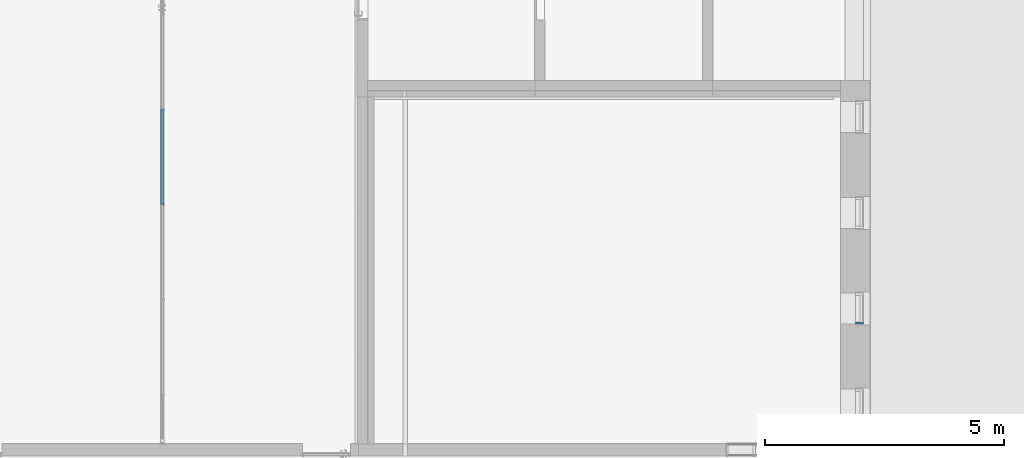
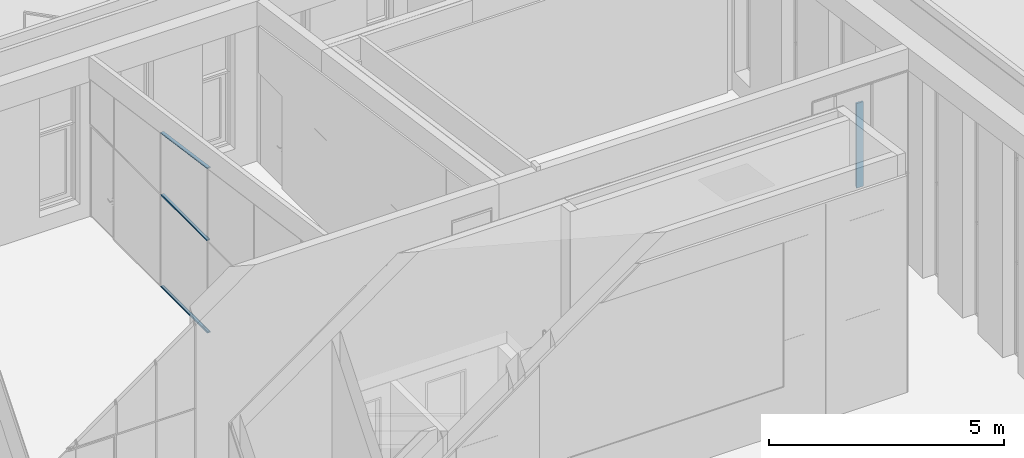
# One storey, part 19 of 246: 4 members, 2 elements without a shape of their own.
"""IFC2X3 building model written with IfcOpenShell, lengths in millimetres."""

from ifc_helpers import new_model, entity, si_unit, converted_unit, derived_unit, money_unit, direction, frame, origin_with_axes, place, context, subcontext, project, spatial, faceted_brep, source, transform, mapped, material, material_list, type_object, element, aggregate, save


model = new_model("IFC2X3")

# Units and contexts
model_context = context("Model", 3, precision=0.01, world=origin_with_axes(), true_north=direction((0.0, 1.0)))
body_context = subcontext(model_context, "Body", "Model", "MODEL_VIEW")
ifc_project = project(units=[si_unit("LENGTHUNIT", "METRE", prefix="MILLI"), si_unit("AREAUNIT", "SQUARE_METRE"), si_unit("VOLUMEUNIT", "CUBIC_METRE"), converted_unit("PLANEANGLEUNIT", "DEGREE", entity("IfcPlaneAngleMeasure", 0.0174532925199), si_unit("PLANEANGLEUNIT", "RADIAN"), dimensions=[0, 0, 0, 0, 0, 0, 0]), si_unit("SOLIDANGLEUNIT", "STERADIAN"), money_unit("EUR"), converted_unit("TIMEUNIT", "Year", entity("IfcTimeMeasure", 31556926.0), si_unit("TIMEUNIT", "SECOND"), dimensions=[0, 0, 1, 0, 0, 0, 0]), si_unit("MASSUNIT", "GRAM", prefix="KILO"), si_unit("THERMODYNAMICTEMPERATUREUNIT", "DEGREE_CELSIUS"), si_unit("LUMINOUSINTENSITYUNIT", "LUMEN"), si_unit("ENERGYUNIT", "JOULE", prefix="MEGA"), derived_unit("THERMALCONDUCTANCEUNIT", [(si_unit("POWERUNIT", "WATT"), 1), (si_unit("LENGTHUNIT", "METRE"), -1), (si_unit("THERMODYNAMICTEMPERATUREUNIT", "KELVIN"), -1)]), derived_unit("SPECIFICHEATCAPACITYUNIT", [(si_unit("ENERGYUNIT", "JOULE"), 1), (si_unit("MASSUNIT", "GRAM", prefix="KILO"), -1), (si_unit("THERMODYNAMICTEMPERATUREUNIT", "KELVIN"), -1)]), derived_unit("MASSDENSITYUNIT", [(si_unit("MASSUNIT", "GRAM", prefix="KILO"), 1), (si_unit("VOLUMEUNIT", "CUBIC_METRE"), -1)])], contexts=[model_context])

# Site, building, storey
site_placement = place(None, origin_with_axes())
site = spatial("IfcSite", under=ifc_project, at=site_placement, Name="L.Koidula tn 11b", CompositionType="ELEMENT")
building_placement = place(site_placement, origin_with_axes())
building = spatial("IfcBuilding", under=site, at=building_placement, Name="Rakvere Riigigümnaasium", CompositionType="ELEMENT")
storey_placement = place(building_placement, origin_with_axes())
storey = spatial("IfcBuildingStorey", under=building, at=storey_placement, Name="1.korrus 0,00", CompositionType="ELEMENT", Elevation=0.0)

# Curtain wall, members
curtain_wall_type = type_object("IfcCurtainWallType", Name="Curtain Wall Type", PredefinedType="NOTDEFINED")
curtain_wall_1_placement = place(storey_placement, frame((32835.0202258, 67589.2016838, 0.0), z_axis=(0.0, 0.0, 1.0), x_axis=(1.0, 0.0, 0.0)))
curtain_wall_1 = element("IfcCurtainWall", 1, at=curtain_wall_1_placement, inside=storey, type_object=curtain_wall_type, Name="SKLF-02")
ifc_material_1 = material(Name="Klaasvill")
ifc_material_2 = material(Name="Teras RAL7012")
ifc_material_list = material_list([ifc_material_1, ifc_material_2])
member_type_1 = type_object("IfcMemberType", Name="Boundary Frame 30 x 42", PredefinedType="MULLION")
shared_shape_1 = source(origin_with_axes(), body_context, "Body", "Brep", [
    faceted_brep([(7.49999990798, 15.000000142, -1.53444652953e-06), (13.8499999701, 15.000000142, -1.53444652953e-06), (13.8499999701, 15.000000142, 2007.53714433), (7.49999990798, 15.000000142, 2007.53714433), (7.49999990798, 29.0161444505, -1.53444652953e-06), (13.8499999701, 29.0161444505, -1.53444652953e-06), (13.8499999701, 29.0161444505, 2007.53714433), (7.49999990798, 29.0161444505, 2007.53714433)], [[[0, 1, 2, 3]], [[0, 4, 5, 1]], [[1, 5, 6, 2]], [[3, 2, 6, 7]], [[4, 0, 3, 7]], [[5, 4, 7, 6]]]),
    faceted_brep([(24.987414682, 29.0161444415, -1.53444652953e-06), (25.004489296, 27.0307503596, -1.53444652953e-06), (25.004489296, 27.0307503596, 2007.53714433), (24.987414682, 29.0161444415, 2007.53714433), (28.5126239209, 29.0161444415, -1.53444652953e-06), (28.7655837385, 28.0385325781, -1.53444652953e-06), (28.4955493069, 27.0307503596, -1.53444652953e-06), (27.75780152, 26.2930025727, -1.53444652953e-06), (26.7500193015, 26.0229681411, -1.53444652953e-06), (25.742237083, 26.2930025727, -1.53444652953e-06), (25.742237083, 26.2930025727, 2007.53714433), (26.7500193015, 26.0229681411, 2007.53714433), (27.75780152, 26.2930025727, 2007.53714433), (28.4955493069, 27.0307503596, 2007.53714433), (28.7655837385, 28.0385325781, 2007.53714433), (28.5126239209, 29.0161444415, 2007.53714433)], [[[0, 1, 2, 3]], [[0, 4, 5, 6, 7, 8, 9, 1]], [[1, 9, 10, 2]], [[3, 2, 10, 11, 12, 13, 14, 15]], [[4, 0, 3, 15]], [[5, 4, 15, 14]], [[6, 5, 14, 13]], [[7, 6, 13, 12]], [[8, 7, 12, 11]], [[9, 8, 11, 10]]]),
    faceted_brep([(7.49999990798, -24.9999997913, -1.53444652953e-06), (7.49999990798, -39.0161445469, -1.53444652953e-06), (7.49999990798, -39.0161445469, 2007.53714433), (7.49999990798, -24.9999997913, 2007.53714433), (13.8499999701, -24.9999997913, -1.53444652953e-06), (13.8499999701, -39.0161445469, -1.53444652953e-06), (13.8499999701, -39.0161445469, 2007.53714433), (13.8499999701, -24.9999997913, 2007.53714433)], [[[0, 1, 2, 3]], [[0, 4, 5, 1]], [[1, 5, 6, 2]], [[3, 2, 6, 7]], [[4, 0, 3, 7]], [[5, 4, 7, 6]]]),
    faceted_brep([(25.004489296, -37.0307503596, -1.53444652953e-06), (24.987414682, -39.0161444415, -1.53444652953e-06), (24.987414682, -39.0161444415, 2007.53714433), (25.004489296, -37.0307503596, 2007.53714433), (25.742237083, -36.2930025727, -1.53444652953e-06), (26.7500193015, -36.0229681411, -1.53444652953e-06), (27.75780152, -36.2930025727, -1.53444652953e-06), (28.4955493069, -37.0307503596, -1.53444652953e-06), (28.7655837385, -38.0385325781, -1.53444652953e-06), (28.5126239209, -39.0161444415, -1.53444652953e-06), (28.5126239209, -39.0161444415, 2007.53714433), (28.7655837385, -38.0385325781, 2007.53714433), (28.4955493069, -37.0307503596, 2007.53714433), (27.75780152, -36.2930025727, 2007.53714433), (26.7500193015, -36.0229681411, 2007.53714433), (25.742237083, -36.2930025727, 2007.53714433)], [[[0, 1, 2, 3]], [[0, 4, 5, 6, 7, 8, 9, 1]], [[1, 9, 10, 2]], [[3, 2, 10, 11, 12, 13, 14, 15]], [[4, 0, 3, 15]], [[5, 4, 15, 14]], [[6, 5, 14, 13]], [[7, 6, 13, 12]], [[8, 7, 12, 11]], [[9, 8, 11, 10]]]),
    faceted_brep([(0.0, -22.0000000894, -1.53444652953e-06), (29.5999996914, -22.0000000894, -1.53444652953e-06), (29.5999996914, -22.0000000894, 2007.53714433), (0.0, -22.0000000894, 2007.53714433), (0.0, 12.0000000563, -1.53444652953e-06), (29.5999996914, 12.0000000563, -1.53444652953e-06), (1.9999999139, 10.0000001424, -1.53444652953e-06), (1.9999999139, -20.0000001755, -1.53444652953e-06), (18.7999996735, -20.0000001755, -1.53444652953e-06), (18.7999996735, 10.0000001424, -1.53444652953e-06), (29.5999996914, 12.0000000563, 2007.53714433), (0.0, 12.0000000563, 2007.53714433), (1.9999999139, 10.0000001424, 2007.53714433), (18.7999996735, 10.0000001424, 2007.53714433), (18.7999996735, -20.0000001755, 2007.53714433), (1.9999999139, -20.0000001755, 2007.53714433)], [[[0, 1, 2, 3]], [[0, 4, 5, 1], [6, 7, 8, 9]], [[1, 5, 10, 2]], [[3, 2, 10, 11], [12, 13, 14, 15]], [[4, 0, 3, 11]], [[5, 4, 11, 10]], [[7, 6, 12, 15]], [[8, 7, 15, 14]], [[9, 8, 14, 13]], [[6, 9, 13, 12]]]),
    faceted_brep([(0.0, 12.0, -1.53444652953e-06), (29.5999996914, 12.0000000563, -1.53444652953e-06), (29.5999996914, 12.0000000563, 2007.53714433), (0.0, 12.0, 2007.53714433), (0.0, 32.0, -1.53444652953e-06), (30.0000193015, 32.0, -1.53444652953e-06), (30.0000193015, 29.0161444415, -1.53444652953e-06), (28.5126239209, 29.0161444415, -1.53444652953e-06), (24.987414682, 29.0161444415, -1.53444652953e-06), (13.8499999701, 29.0161444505, -1.53444652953e-06), (7.49999999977, 29.0161444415, -1.53444652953e-06), (7.49999999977, 15.0, -1.53444652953e-06), (13.8499999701, 15.000000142, -1.53444652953e-06), (30.0000193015, 15.0, -1.53444652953e-06), (30.0000193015, 12.0, -1.53444652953e-06), (30.0000193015, 12.0, 2007.53714433), (30.0000193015, 15.0, 2007.53714433), (13.8499999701, 15.000000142, 2007.53714433), (7.49999999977, 15.0, 2007.53714433), (7.49999999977, 29.0161444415, 2007.53714433), (13.8499999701, 29.0161444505, 2007.53714433), (24.987414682, 29.0161444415, 2007.53714433), (28.5126239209, 29.0161444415, 2007.53714433), (30.0000193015, 29.0161444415, 2007.53714433), (30.0000193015, 32.0, 2007.53714433), (0.0, 32.0, 2007.53714433)], [[[0, 1, 2, 3]], [[0, 4, 5, 6, 7, 8, 9, 10, 11, 12, 13, 14, 1]], [[1, 14, 15, 2]], [[3, 2, 15, 16, 17, 18, 19, 20, 21, 22, 23, 24, 25]], [[4, 0, 3, 25]], [[5, 4, 25, 24]], [[6, 5, 24, 23]], [[7, 6, 23, 22]], [[8, 7, 22, 21]], [[9, 8, 21, 20]], [[10, 9, 20, 19]], [[11, 10, 19, 18]], [[12, 11, 18, 17]], [[13, 12, 17, 16]], [[14, 13, 16, 15]]]),
    faceted_brep([(0.0, -22.0, -1.53444652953e-06), (0.0, -42.0, -1.53444652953e-06), (0.0, -42.0, 2007.53714433), (0.0, -22.0, 2007.53714433), (29.5999996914, -22.0000000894, -1.53444652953e-06), (30.0000193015, -22.0, -1.53444652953e-06), (30.0000193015, -25.0, -1.53444652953e-06), (13.8499999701, -24.9999997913, -1.53444652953e-06), (7.49999999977, -25.0, -1.53444652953e-06), (7.49999999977, -39.0161444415, -1.53444652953e-06), (13.8499999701, -39.0161445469, -1.53444652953e-06), (24.987414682, -39.0161444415, -1.53444652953e-06), (28.5126239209, -39.0161444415, -1.53444652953e-06), (30.0000193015, -39.0161444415, -1.53444652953e-06), (30.0000193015, -42.0, -1.53444652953e-06), (30.0000193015, -42.0, 2007.53714433), (30.0000193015, -39.0161444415, 2007.53714433), (28.5126239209, -39.0161444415, 2007.53714433), (24.987414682, -39.0161444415, 2007.53714433), (13.8499999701, -39.0161445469, 2007.53714433), (7.49999999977, -39.0161444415, 2007.53714433), (7.49999999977, -25.0, 2007.53714433), (13.8499999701, -24.9999997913, 2007.53714433), (30.0000193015, -25.0, 2007.53714433), (30.0000193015, -22.0, 2007.53714433), (29.5999996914, -22.0000000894, 2007.53714433)], [[[0, 1, 2, 3]], [[0, 4, 5, 6, 7, 8, 9, 10, 11, 12, 13, 14, 1]], [[1, 14, 15, 2]], [[3, 2, 15, 16, 17, 18, 19, 20, 21, 22, 23, 24, 25]], [[4, 0, 3, 25]], [[5, 4, 25, 24]], [[6, 5, 24, 23]], [[7, 6, 23, 22]], [[8, 7, 22, 21]], [[9, 8, 21, 20]], [[10, 9, 20, 19]], [[11, 10, 19, 18]], [[12, 11, 18, 17]], [[13, 12, 17, 16]], [[14, 13, 16, 15]]]),
])
member_1_placement = place(curtain_wall_1_placement, frame((0.0, -993.75, 4302.51616155), z_axis=(0.0, 0.99001904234, -0.140933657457), x_axis=(0.0, -0.140933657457, -0.99001904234)))
member_1 = element("IfcMember", 2, at=member_1_placement, type_object=member_type_1, material=ifc_material_list, Name="SKLF-16-raam", ObjectType="MULLION", context=body_context, shape_type="MappedRepresentation", body=[
    mapped(shared_shape_1, transform((0.0, 0.0, 0.0))),
])
shared_shape_2 = source(origin_with_axes(), body_context, "Body", "Brep", [
    faceted_brep([(7.49999990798, 15.000000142, 0.0), (13.8499999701, 15.000000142, 0.0), (13.8499999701, 15.000000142, 1987.5), (7.49999990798, 15.000000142, 1987.5), (7.49999990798, 29.0161444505, 0.0), (13.8499999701, 29.0161444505, 0.0), (13.8499999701, 29.0161444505, 1987.5), (7.49999990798, 29.0161444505, 1987.5)], [[[0, 1, 2, 3]], [[0, 4, 5, 1]], [[1, 5, 6, 2]], [[3, 2, 6, 7]], [[4, 0, 3, 7]], [[5, 4, 7, 6]]]),
    faceted_brep([(24.987414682, 29.0161444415, 0.0), (25.004489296, 27.0307503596, 0.0), (25.004489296, 27.0307503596, 1987.5), (24.987414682, 29.0161444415, 1987.5), (28.5126239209, 29.0161444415, 0.0), (28.7655837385, 28.0385325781, 0.0), (28.4955493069, 27.0307503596, 0.0), (27.75780152, 26.2930025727, 0.0), (26.7500193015, 26.0229681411, 0.0), (25.742237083, 26.2930025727, 0.0), (25.742237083, 26.2930025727, 1987.5), (26.7500193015, 26.0229681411, 1987.5), (27.75780152, 26.2930025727, 1987.5), (28.4955493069, 27.0307503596, 1987.5), (28.7655837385, 28.0385325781, 1987.5), (28.5126239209, 29.0161444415, 1987.5)], [[[0, 1, 2, 3]], [[0, 4, 5, 6, 7, 8, 9, 1]], [[1, 9, 10, 2]], [[3, 2, 10, 11, 12, 13, 14, 15]], [[4, 0, 3, 15]], [[5, 4, 15, 14]], [[6, 5, 14, 13]], [[7, 6, 13, 12]], [[8, 7, 12, 11]], [[9, 8, 11, 10]]]),
    faceted_brep([(7.49999990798, -24.9999997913, 0.0), (7.49999990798, -39.0161445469, 0.0), (7.49999990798, -39.0161445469, 1987.5), (7.49999990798, -24.9999997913, 1987.5), (13.8499999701, -24.9999997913, 0.0), (13.8499999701, -39.0161445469, 0.0), (13.8499999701, -39.0161445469, 1987.5), (13.8499999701, -24.9999997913, 1987.5)], [[[0, 1, 2, 3]], [[0, 4, 5, 1]], [[1, 5, 6, 2]], [[3, 2, 6, 7]], [[4, 0, 3, 7]], [[5, 4, 7, 6]]]),
    faceted_brep([(25.004489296, -37.0307503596, 0.0), (24.987414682, -39.0161444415, 0.0), (24.987414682, -39.0161444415, 1987.5), (25.004489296, -37.0307503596, 1987.5), (25.742237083, -36.2930025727, 0.0), (26.7500193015, -36.0229681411, 0.0), (27.75780152, -36.2930025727, 0.0), (28.4955493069, -37.0307503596, 0.0), (28.7655837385, -38.0385325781, 0.0), (28.5126239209, -39.0161444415, 0.0), (28.5126239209, -39.0161444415, 1987.5), (28.7655837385, -38.0385325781, 1987.5), (28.4955493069, -37.0307503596, 1987.5), (27.75780152, -36.2930025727, 1987.5), (26.7500193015, -36.0229681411, 1987.5), (25.742237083, -36.2930025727, 1987.5)], [[[0, 1, 2, 3]], [[0, 4, 5, 6, 7, 8, 9, 1]], [[1, 9, 10, 2]], [[3, 2, 10, 11, 12, 13, 14, 15]], [[4, 0, 3, 15]], [[5, 4, 15, 14]], [[6, 5, 14, 13]], [[7, 6, 13, 12]], [[8, 7, 12, 11]], [[9, 8, 11, 10]]]),
    faceted_brep([(0.0, -22.0000000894, 0.0), (29.5999996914, -22.0000000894, 0.0), (29.5999996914, -22.0000000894, 1987.5), (0.0, -22.0000000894, 1987.5), (0.0, 12.0000000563, 0.0), (29.5999996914, 12.0000000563, 0.0), (1.9999999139, 10.0000001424, 0.0), (1.9999999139, -20.0000001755, 0.0), (18.7999996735, -20.0000001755, 0.0), (18.7999996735, 10.0000001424, 0.0), (29.5999996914, 12.0000000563, 1987.5), (0.0, 12.0000000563, 1987.5), (1.9999999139, 10.0000001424, 1987.5), (18.7999996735, 10.0000001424, 1987.5), (18.7999996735, -20.0000001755, 1987.5), (1.9999999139, -20.0000001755, 1987.5)], [[[0, 1, 2, 3]], [[0, 4, 5, 1], [6, 7, 8, 9]], [[1, 5, 10, 2]], [[3, 2, 10, 11], [12, 13, 14, 15]], [[4, 0, 3, 11]], [[5, 4, 11, 10]], [[7, 6, 12, 15]], [[8, 7, 15, 14]], [[9, 8, 14, 13]], [[6, 9, 13, 12]]]),
    faceted_brep([(0.0, 12.0, 0.0), (29.5999996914, 12.0000000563, 0.0), (29.5999996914, 12.0000000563, 1987.5), (0.0, 12.0, 1987.5), (0.0, 32.0, 0.0), (30.0000193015, 32.0, 0.0), (30.0000193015, 29.0161444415, 0.0), (28.5126239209, 29.0161444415, 0.0), (24.987414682, 29.0161444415, 0.0), (13.8499999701, 29.0161444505, 0.0), (7.49999999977, 29.0161444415, 0.0), (7.49999999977, 15.0, 0.0), (13.8499999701, 15.000000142, 0.0), (30.0000193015, 15.0, 0.0), (30.0000193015, 12.0, 0.0), (30.0000193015, 12.0, 1987.5), (30.0000193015, 15.0, 1987.5), (13.8499999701, 15.000000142, 1987.5), (7.49999999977, 15.0, 1987.5), (7.49999999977, 29.0161444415, 1987.5), (13.8499999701, 29.0161444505, 1987.5), (24.987414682, 29.0161444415, 1987.5), (28.5126239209, 29.0161444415, 1987.5), (30.0000193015, 29.0161444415, 1987.5), (30.0000193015, 32.0, 1987.5), (0.0, 32.0, 1987.5)], [[[0, 1, 2, 3]], [[0, 4, 5, 6, 7, 8, 9, 10, 11, 12, 13, 14, 1]], [[1, 14, 15, 2]], [[3, 2, 15, 16, 17, 18, 19, 20, 21, 22, 23, 24, 25]], [[4, 0, 3, 25]], [[5, 4, 25, 24]], [[6, 5, 24, 23]], [[7, 6, 23, 22]], [[8, 7, 22, 21]], [[9, 8, 21, 20]], [[10, 9, 20, 19]], [[11, 10, 19, 18]], [[12, 11, 18, 17]], [[13, 12, 17, 16]], [[14, 13, 16, 15]]]),
    faceted_brep([(0.0, -22.0, 0.0), (0.0, -42.0, 0.0), (0.0, -42.0, 1987.5), (0.0, -22.0, 1987.5), (29.5999996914, -22.0000000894, 0.0), (30.0000193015, -22.0, 0.0), (30.0000193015, -25.0, 0.0), (13.8499999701, -24.9999997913, 0.0), (7.49999999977, -25.0, 0.0), (7.49999999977, -39.0161444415, 0.0), (13.8499999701, -39.0161445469, 0.0), (24.987414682, -39.0161444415, 0.0), (28.5126239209, -39.0161444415, 0.0), (30.0000193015, -39.0161444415, 0.0), (30.0000193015, -42.0, 0.0), (30.0000193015, -42.0, 1987.5), (30.0000193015, -39.0161444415, 1987.5), (28.5126239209, -39.0161444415, 1987.5), (24.987414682, -39.0161444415, 1987.5), (13.8499999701, -39.0161445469, 1987.5), (7.49999999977, -39.0161444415, 1987.5), (7.49999999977, -25.0, 1987.5), (13.8499999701, -24.9999997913, 1987.5), (30.0000193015, -25.0, 1987.5), (30.0000193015, -22.0, 1987.5), (29.5999996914, -22.0000000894, 1987.5)], [[[0, 1, 2, 3]], [[0, 4, 5, 6, 7, 8, 9, 10, 11, 12, 13, 14, 1]], [[1, 14, 15, 2]], [[3, 2, 15, 16, 17, 18, 19, 20, 21, 22, 23, 24, 25]], [[4, 0, 3, 25]], [[5, 4, 25, 24]], [[6, 5, 24, 23]], [[7, 6, 23, 22]], [[8, 7, 22, 21]], [[9, 8, 21, 20]], [[10, 9, 20, 19]], [[11, 10, 19, 18]], [[12, 11, 18, 17]], [[13, 12, 17, 16]], [[14, 13, 16, 15]]]),
])
member_2_placement = place(curtain_wall_1_placement, frame((0.0, 993.75, 0.0), z_axis=(0.0, -1.0, 0.0), x_axis=(0.0, 0.0, 1.0)))
member_2 = element("IfcMember", 3, at=member_2_placement, type_object=member_type_1, material=ifc_material_list, Name="SKLF-05-raam", ObjectType="MULLION", context=body_context, shape_type="MappedRepresentation", body=[
    mapped(shared_shape_2, transform((0.0, 0.0, 0.0))),
])

# Curtain wall, member
curtain_wall_2_placement = place(storey_placement, frame((47433.9999935, 64420.454563, 200.0), z_axis=(0.0, 0.0, 1.0), x_axis=(1.0, 0.0, 0.0)))
curtain_wall_2 = element("IfcCurtainWall", 4, at=curtain_wall_2_placement, inside=storey, type_object=curtain_wall_type, Name="KLF-07-12")
ifc_material_3 = material(Name="Alumiiniumprofiil (RAL 7021)")
member_type_2 = type_object("IfcMemberType", Name="Boundary Frame 50 x 170", PredefinedType="MULLION")
shared_shape_3 = source(origin_with_axes(), body_context, "Body", "Brep", [
    faceted_brep([(-37.0, -26.0, 2200.00000124), (-50.0, -26.0, 2200.00000124), (-50.0, -124.0, 2200.00000124), (0.0, -124.0, 2200.00000124), (0.0, 46.0, 2200.00000124), (-50.0, 46.0, 2200.00000124), (-50.0, 26.0, 2200.00000124), (-37.0, 26.0, 2200.00000124), (-37.0, -26.0, 37.0000020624), (-50.0, -26.0, 50.000002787), (-50.0, -124.0, 50.000002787), (0.0, -124.0, 0.0), (0.0, 46.0, 0.0), (-50.0, 46.0, 50.000002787), (-50.0, 26.0, 50.000002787), (-37.0, 26.0, 37.0000020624)], [[[0, 1, 2, 3, 4, 5, 6, 7]], [[0, 8, 9, 1]], [[9, 10, 2, 1]], [[2, 10, 11, 3]], [[3, 11, 12, 4]], [[4, 12, 13, 5]], [[6, 5, 13, 14]], [[14, 15, 7, 6]], [[7, 15, 8, 0]], [[8, 15, 14, 13, 12, 11, 10, 9]]]),
])
member_3_placement = place(curtain_wall_2_placement, frame((0.0, -325.000320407, 0.0), z_axis=(0.0, 5.573922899e-08, 1.0), x_axis=(0.0, 1.0, -5.573922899e-08)))
member_3 = element("IfcMember", 5, at=member_3_placement, type_object=member_type_2, material=ifc_material_3, Name="KLF-07-78-Profiilid", ObjectType="MULLION", context=body_context, shape_type="MappedRepresentation", body=[
    mapped(shared_shape_3, transform((0.0, 0.0, 0.0), x_axis=(-1.0, 0.0, -5.573922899e-08), y_axis=(0.0, -1.0, 0.0), z_axis=(-5.573922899e-08, 0.0, 1.0))),
])
aggregate(curtain_wall_2, [member_3])

# Member
member_type_3 = type_object("IfcMemberType", Name="Siseklaasfassaad-Vaheprofiil-Doubleline30 34 x 42", PredefinedType="MULLION")
shared_shape_4 = source(origin_with_axes(), body_context, "Body", "Brep", [
    faceted_brep([(15.4955493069, 27.0307503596, 15.4955493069), (15.7655837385, 28.0385325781, 15.7655837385), (15.7655837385, 28.0385325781, 1971.73441626), (15.4955493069, 27.0307503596, 1972.00445069), (15.5126239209, 29.0161444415, 15.5126239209), (14.75780152, 26.2930025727, 14.75780152), (13.7500193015, 26.0229681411, 13.7500193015), (12.742237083, 26.2930025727, 12.742237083), (12.004489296, 27.0307503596, 12.004489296), (11.987414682, 29.0161444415, 11.987414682), (15.5126239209, 29.0161444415, 1971.98737608), (12.742237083, 26.2930025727, 1974.75776292), (13.7500193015, 26.0229681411, 1973.7499807), (14.75780152, 26.2930025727, 1972.74219848), (11.987414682, 29.0161444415, 1975.51258532), (12.004489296, 27.0307503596, 1975.4955107)], [[[0, 1, 2, 3]], [[4, 1, 0, 5, 6, 7, 8, 9]], [[1, 4, 10, 2]], [[11, 12, 13, 3, 2, 10, 14, 15]], [[5, 0, 3, 13]], [[6, 5, 13, 12]], [[7, 6, 12, 11]], [[8, 7, 11, 15]], [[9, 8, 15, 14]], [[4, 9, 14, 10]]]),
    faceted_brep([(11.987414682, -39.0161444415, 11.987414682), (15.5126239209, -39.0161444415, 15.5126239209), (15.5126239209, -39.0161444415, 1971.98737608), (11.987414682, -39.0161444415, 1975.51258532), (15.4955493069, -37.0307503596, 15.4955493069), (11.7344548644, -38.0385325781, 11.7344548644), (12.004489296, -37.0307503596, 12.004489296), (12.742237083, -36.2930025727, 12.742237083), (13.7500193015, -36.0229681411, 13.7500193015), (14.75780152, -36.2930025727, 14.75780152), (15.4955493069, -37.0307503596, 1972.00445069), (12.742237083, -36.2930025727, 1974.75776292), (12.004489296, -37.0307503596, 1975.4955107), (11.7344548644, -38.0385325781, 1975.76554514), (14.75780152, -36.2930025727, 1972.74219848), (13.7500193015, -36.0229681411, 1973.7499807)], [[[0, 1, 2, 3]], [[4, 1, 0, 5, 6, 7, 8, 9]], [[1, 4, 10, 2]], [[11, 12, 13, 3, 2, 10, 14, 15]], [[5, 0, 3, 13]], [[6, 5, 13, 12]], [[7, 6, 12, 11]], [[8, 7, 11, 15]], [[9, 8, 15, 14]], [[4, 9, 14, 10]]]),
    faceted_brep([(-12.004489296, 27.0307503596, 12.004489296), (-11.7344548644, 28.0385325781, 11.7344548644), (-11.7344548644, 28.0385325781, 1975.76554514), (-12.004489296, 27.0307503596, 1975.4955107), (-11.987414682, 29.0161444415, 11.987414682), (-12.742237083, 26.2930025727, 12.742237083), (-13.7500193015, 26.0229681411, 13.7500193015), (-14.75780152, 26.2930025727, 14.75780152), (-15.4955493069, 27.0307503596, 15.4955493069), (-15.7655837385, 28.0385325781, 15.7655837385), (-11.987414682, 29.0161444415, 1975.51258532), (-14.75780152, 26.2930025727, 1972.74219848), (-13.7500193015, 26.0229681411, 1973.7499807), (-12.742237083, 26.2930025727, 1974.75776292), (-15.7655837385, 28.0385325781, 1971.73441626), (-15.4955493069, 27.0307503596, 1972.00445069)], [[[0, 1, 2, 3]], [[4, 1, 0, 5, 6, 7, 8, 9]], [[1, 4, 10, 2]], [[11, 12, 13, 3, 2, 10, 14, 15]], [[5, 0, 3, 13]], [[6, 5, 13, 12]], [[7, 6, 12, 11]], [[8, 7, 11, 15]], [[9, 8, 15, 14]], [[4, 9, 14, 10]]]),
    faceted_brep([(-11.987414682, -39.0161444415, 11.987414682), (-11.7344548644, -38.0385325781, 11.7344548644), (-11.7344548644, -38.0385325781, 1975.76554514), (-11.987414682, -39.0161444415, 1975.51258532), (-12.004489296, -37.0307503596, 12.004489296), (-15.5126239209, -39.0161444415, 15.5126239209), (-15.4955493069, -37.0307503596, 15.4955493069), (-14.75780152, -36.2930025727, 14.75780152), (-13.7500193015, -36.0229681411, 13.7500193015), (-12.742237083, -36.2930025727, 12.742237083), (-12.004489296, -37.0307503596, 1975.4955107), (-14.75780152, -36.2930025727, 1972.74219848), (-15.4955493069, -37.0307503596, 1972.00445069), (-15.5126239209, -39.0161444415, 1971.98737608), (-12.742237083, -36.2930025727, 1974.75776292), (-13.7500193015, -36.0229681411, 1973.7499807)], [[[0, 1, 2, 3]], [[4, 1, 0, 5, 6, 7, 8, 9]], [[1, 4, 10, 2]], [[11, 12, 13, 3, 2, 10, 14, 15]], [[5, 0, 3, 13]], [[6, 5, 13, 12]], [[7, 6, 12, 11]], [[8, 7, 11, 15]], [[9, 8, 15, 14]], [[4, 9, 14, 10]]]),
    faceted_brep([(-12.8000002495, 10.0000001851, 12.8000002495), (0.0, 10.0000001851, 0.0), (4.0000003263, 10.0000001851, 4.0000003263), (4.0000003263, 10.0000001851, 1983.49999967), (0.0, 10.0000001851, 1987.5), (-12.8000002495, 10.0000001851, 1974.69999975), (-14.8000001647, 12.0000001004, 14.8000001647), (0.0, 12.0000001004, 0.0), (-12.8000002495, -20.0000001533, 12.8000002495), (0.0, -20.0000001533, 0.0), (0.0, -22.0000000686, 0.0), (-14.8000001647, -22.0000000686, 14.8000001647), (14.8000003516, 12.0000001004, 14.8000003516), (14.8000003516, -22.0000000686, 14.8000003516), (4.0000003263, -20.0000001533, 4.0000003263), (4.0000003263, -20.0000001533, 1983.49999967), (0.0, -20.0000001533, 1987.5), (0.0, -22.0000000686, 1987.5), (14.8000003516, -22.0000000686, 1972.69999965), (14.8000003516, 12.0000001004, 1972.69999965), (0.0, 12.0000001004, 1987.5), (-12.8000002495, -20.0000001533, 1974.69999975), (-14.8000001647, 12.0000001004, 1972.69999984), (-14.8000001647, -22.0000000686, 1972.69999984)], [[[0, 1, 2, 3, 4, 5]], [[6, 7, 1, 0, 8, 9, 10, 11]], [[7, 12, 13, 10, 9, 14, 2, 1]], [[2, 14, 15, 3]], [[15, 16, 17, 18, 19, 20, 4, 3]], [[21, 5, 4, 20, 22, 23, 17, 16]], [[8, 0, 5, 21]], [[7, 6, 22, 20]], [[9, 8, 21, 16, 15, 14]], [[11, 10, 17, 23]], [[6, 11, 23, 22]], [[12, 7, 20, 19]], [[13, 12, 19, 18]], [[10, 13, 18, 17]]]),
    faceted_brep([(17.0000193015, 29.0161446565, 17.0000193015), (17.0000193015, 32.0000000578, 17.0000193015), (17.0000193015, 32.0000000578, 1970.4999807), (17.0000193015, 29.0161446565, 1970.4999807), (0.0, 32.0000000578, 0.0), (15.5126239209, 29.0161444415, 15.5126239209), (11.987414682, 29.0161444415, 11.987414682), (7.50000002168, 29.0161446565, 7.50000002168), (7.50000002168, 15.0000000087, 7.50000002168), (17.0000193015, 15.0000000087, 17.0000193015), (17.0000193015, 12.0, 17.0000193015), (14.8000003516, 12.0000001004, 14.8000003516), (0.0, 12.0, 0.0), (0.0, 32.0000000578, 1987.5), (7.50000002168, 29.0161446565, 1979.99999998), (11.987414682, 29.0161444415, 1975.51258532), (15.5126239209, 29.0161444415, 1971.98737608), (0.0, 12.0, 1987.5), (14.8000003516, 12.0000001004, 1972.69999965), (17.0000193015, 12.0, 1970.4999807), (17.0000193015, 15.0000000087, 1970.4999807), (7.50000002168, 15.0000000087, 1979.99999998)], [[[0, 1, 2, 3]], [[4, 1, 0, 5, 6, 7, 8, 9, 10, 11, 12]], [[1, 4, 13, 2]], [[14, 15, 16, 3, 2, 13, 17, 18, 19, 20, 21]], [[5, 0, 3, 16]], [[6, 5, 16, 15]], [[7, 6, 15, 14]], [[8, 7, 14, 21]], [[9, 8, 21, 20]], [[10, 9, 20, 19]], [[11, 10, 19, 18]], [[12, 11, 18, 17]], [[4, 12, 17, 13]]]),
    faceted_brep([(17.0000193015, -24.9999999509, 17.0000193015), (17.0000193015, -21.9999999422, 17.0000193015), (17.0000193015, -21.9999999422, 1970.4999807), (17.0000193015, -24.9999999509, 1970.4999807), (14.8000003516, -22.0000000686, 14.8000003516), (7.50000002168, -24.9999999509, 7.50000002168), (7.50000002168, -39.0161445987, 7.50000002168), (11.987414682, -39.0161444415, 11.987414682), (15.5126239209, -39.0161444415, 15.5126239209), (17.0000193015, -39.0161445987, 17.0000193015), (17.0000193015, -42.0, 17.0000193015), (0.0, -42.0, 0.0), (0.0, -21.9999999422, 0.0), (14.8000003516, -22.0000000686, 1972.69999965), (11.987414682, -39.0161444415, 1975.51258532), (7.50000002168, -39.0161445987, 1979.99999998), (7.50000002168, -24.9999999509, 1979.99999998), (0.0, -21.9999999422, 1987.5), (0.0, -42.0, 1987.5), (17.0000193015, -42.0, 1970.4999807), (17.0000193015, -39.0161445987, 1970.4999807), (15.5126239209, -39.0161444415, 1971.98737608)], [[[0, 1, 2, 3]], [[4, 1, 0, 5, 6, 7, 8, 9, 10, 11, 12]], [[1, 4, 13, 2]], [[14, 15, 16, 3, 2, 13, 17, 18, 19, 20, 21]], [[5, 0, 3, 16]], [[6, 5, 16, 15]], [[7, 6, 15, 14]], [[8, 7, 14, 21]], [[9, 8, 21, 20]], [[10, 9, 20, 19]], [[11, 10, 19, 18]], [[12, 11, 18, 17]], [[4, 12, 17, 13]]]),
    faceted_brep([(0.0, 12.0, 0.0), (0.0, 32.0, 0.0), (0.0, 32.0, 1987.5), (0.0, 12.0, 1987.5), (-17.0000193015, 32.0, 17.0000193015), (-14.8000001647, 12.0000001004, 14.8000001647), (-17.0000193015, 12.0, 17.0000193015), (-17.0000193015, 15.0, 17.0000193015), (-7.49999999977, 15.0, 7.49999999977), (-7.49999999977, 29.0161444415, 7.49999999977), (-11.987414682, 29.0161444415, 11.987414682), (-15.5126239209, 29.0161444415, 15.5126239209), (-17.0000193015, 29.0161444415, 17.0000193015), (-17.0000193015, 32.0, 1970.4999807), (-17.0000193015, 12.0, 1970.4999807), (-14.8000001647, 12.0000001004, 1972.69999984), (-17.0000193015, 29.0161444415, 1970.4999807), (-15.5126239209, 29.0161444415, 1971.98737608), (-11.987414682, 29.0161444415, 1975.51258532), (-7.49999999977, 29.0161444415, 1980.0), (-7.49999999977, 15.0, 1980.0), (-17.0000193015, 15.0, 1970.4999807)], [[[0, 1, 2, 3]], [[4, 1, 0, 5, 6, 7, 8, 9, 10, 11, 12]], [[1, 4, 13, 2]], [[14, 15, 3, 2, 13, 16, 17, 18, 19, 20, 21]], [[5, 0, 3, 15]], [[6, 5, 15, 14]], [[7, 6, 14, 21]], [[8, 7, 21, 20]], [[9, 8, 20, 19]], [[10, 9, 19, 18]], [[11, 10, 18, 17]], [[12, 11, 17, 16]], [[4, 12, 16, 13]]]),
    faceted_brep([(0.0, -42.0, 0.0), (0.0, -22.0, 0.0), (0.0, -22.0, 1987.5), (0.0, -42.0, 1987.5), (-14.8000001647, -22.0000000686, 14.8000001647), (-17.0000193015, -42.0, 17.0000193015), (-17.0000193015, -39.0161444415, 17.0000193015), (-15.5126239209, -39.0161444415, 15.5126239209), (-11.987414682, -39.0161444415, 11.987414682), (-7.49999999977, -39.0161444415, 7.49999999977), (-7.49999999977, -25.0, 7.49999999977), (-17.0000193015, -25.0, 17.0000193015), (-17.0000193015, -22.0, 17.0000193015), (-14.8000001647, -22.0000000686, 1972.69999984), (-17.0000193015, -39.0161444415, 1970.4999807), (-17.0000193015, -42.0, 1970.4999807), (-17.0000193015, -22.0, 1970.4999807), (-17.0000193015, -25.0, 1970.4999807), (-7.49999999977, -25.0, 1980.0), (-7.49999999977, -39.0161444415, 1980.0), (-11.987414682, -39.0161444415, 1975.51258532), (-15.5126239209, -39.0161444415, 1971.98737608)], [[[0, 1, 2, 3]], [[4, 1, 0, 5, 6, 7, 8, 9, 10, 11, 12]], [[1, 4, 13, 2]], [[14, 15, 3, 2, 13, 16, 17, 18, 19, 20, 21]], [[5, 0, 3, 15]], [[6, 5, 15, 14]], [[7, 6, 14, 21]], [[8, 7, 21, 20]], [[9, 8, 20, 19]], [[10, 9, 19, 18]], [[11, 10, 18, 17]], [[12, 11, 17, 16]], [[4, 12, 16, 13]]]),
])
member_4_placement = place(curtain_wall_1_placement, frame((0.0, 993.75, 2400.0), z_axis=(0.0, -1.0, 0.0), x_axis=(0.0, 0.0, 1.0)))
member_4 = element("IfcMember", 6, at=member_4_placement, type_object=member_type_3, material=ifc_material_list, Name="Frame-Siseklaasf-124", ObjectType="MULLION", context=body_context, shape_type="MappedRepresentation", body=[
    mapped(shared_shape_4, transform((0.0, 0.0, 0.0))),
])

aggregate(curtain_wall_1, [member_2, member_4, member_1])

save(model, "model.ifc")
